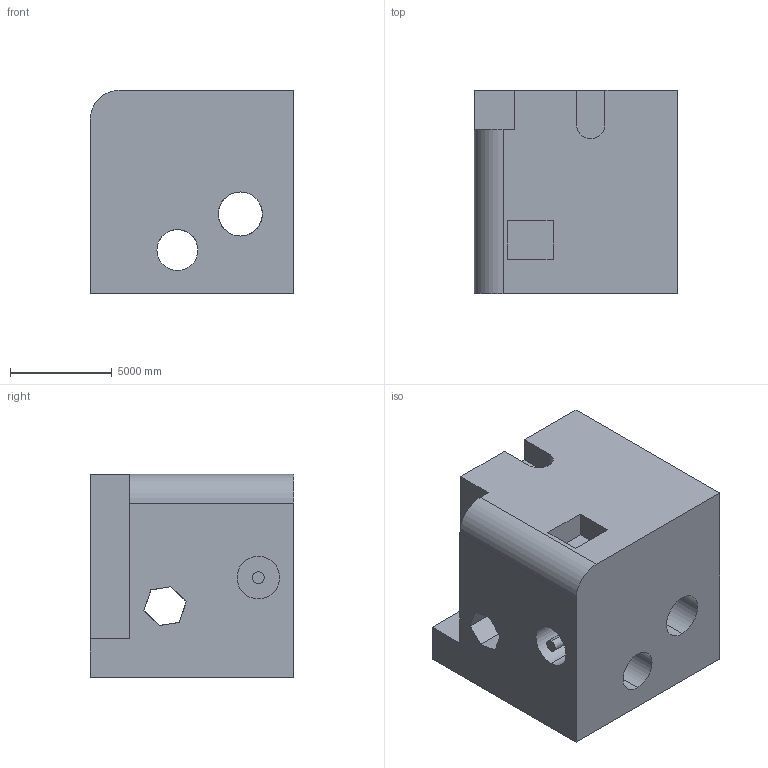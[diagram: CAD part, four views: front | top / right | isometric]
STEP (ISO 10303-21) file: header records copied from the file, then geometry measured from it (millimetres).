
FILE_DESCRIPTION (( 'STEP AP203' ), '1' );
FILE_NAME ('1946.STEP', '2022-08-23T09:48:52', ( 'user' ), ( '' ), 'SwSTEP 2.0', 'SolidWorks 2021', '' );
FILE_SCHEMA (( 'CONFIG_CONTROL_DESIGN' ));
Length unit declared in the file: centimetre
Products named in the file (1): 1946
Bounding box: 10000 x 10000 x 10000 mm (x, y, z)
Volume: 825317421389.7 mm3; surface area: 842992864.3 mm2
Topology: 1 solids, 1 shells, 52 faces, 153 edges, 102 vertices
Faces by surface type: plane 38, cylinder 14
Entity records: 2204 total; most frequent: CARTESIAN_POINT 779, ORIENTED_EDGE 306, DIRECTION 251, EDGE_CURVE 153, VERTEX_POINT 102, VECTOR 97, LINE 97, AXIS2_PLACEMENT_3D 77
